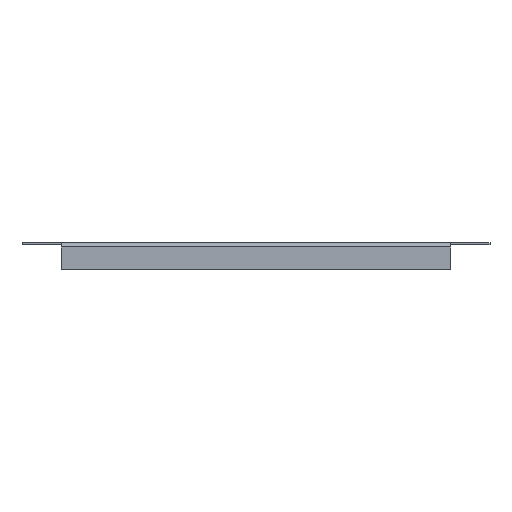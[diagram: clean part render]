
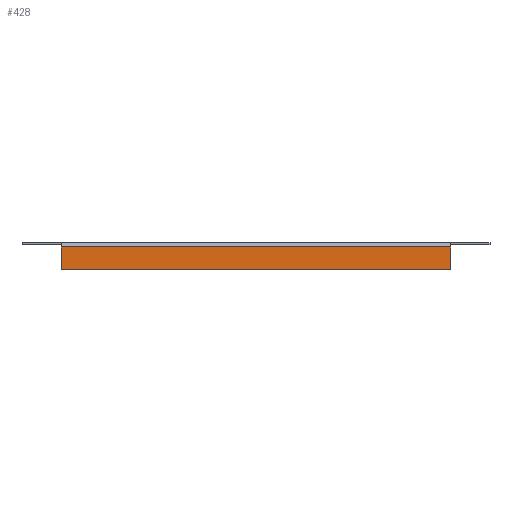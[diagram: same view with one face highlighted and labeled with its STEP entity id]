
A CAD part, front view. The second image highlights one B-rep face of the part: STEP entity #428.
In plain terms, the highlighted planar face has unit normal (0, -1, 0).
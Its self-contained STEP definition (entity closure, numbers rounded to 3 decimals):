
#39 = CARTESIAN_POINT ( 'NONE',  ( -110.2, -99.5, -13.8 ) ) ;
#44 = VECTOR ( 'NONE', #291, 1000. ) ;
#84 = EDGE_CURVE ( 'NONE', #817, #505, #1052, .T. ) ;
#92 = DIRECTION ( 'NONE',  ( 0., 0., 1. ) ) ;
#152 = EDGE_CURVE ( 'NONE', #388, #342, #1193, .T. ) ;
#185 = CARTESIAN_POINT ( 'NONE',  ( -110.2, -99.5, -1.2 ) ) ;
#201 = CARTESIAN_POINT ( 'NONE',  ( 110.2, -99.5, -13.8 ) ) ;
#219 = CARTESIAN_POINT ( 'NONE',  ( 110.2, -99.5, 0. ) ) ;
#265 = LINE ( 'NONE', #201, #44 ) ;
#291 = DIRECTION ( 'NONE',  ( -1., 0., 0. ) ) ;
#342 = VERTEX_POINT ( 'NONE', #699 ) ;
#347 = DIRECTION ( 'NONE',  ( 0., 1., 0. ) ) ;
#371 = FACE_OUTER_BOUND ( 'NONE', #1116, .T. ) ;
#388 = VERTEX_POINT ( 'NONE', #529 ) ;
#392 = AXIS2_PLACEMENT_3D ( 'NONE', #625, #347, #1003 ) ;
#405 = ORIENTED_EDGE ( 'NONE', *, *, #84, .F. ) ;
#428 = ADVANCED_FACE ( 'NONE', ( #371 ), #905, .F. ) ;
#475 = ORIENTED_EDGE ( 'NONE', *, *, #783, .F. ) ;
#492 = DIRECTION ( 'NONE',  ( 0., 0., -1. ) ) ;
#505 = VERTEX_POINT ( 'NONE', #185 ) ;
#529 = CARTESIAN_POINT ( 'NONE',  ( 110.2, -99.5, -1.2 ) ) ;
#624 = EDGE_CURVE ( 'NONE', #342, #817, #265, .T. ) ;
#625 = CARTESIAN_POINT ( 'NONE',  ( 110.2, -99.5, 0. ) ) ;
#626 = ORIENTED_EDGE ( 'NONE', *, *, #152, .F. ) ;
#669 = VECTOR ( 'NONE', #492, 1000. ) ;
#699 = CARTESIAN_POINT ( 'NONE',  ( 110.2, -99.5, -13.8 ) ) ;
#733 = ORIENTED_EDGE ( 'NONE', *, *, #624, .F. ) ;
#779 = DIRECTION ( 'NONE',  ( 1., 0., 0. ) ) ;
#783 = EDGE_CURVE ( 'NONE', #505, #388, #1160, .T. ) ;
#817 = VERTEX_POINT ( 'NONE', #39 ) ;
#863 = VECTOR ( 'NONE', #92, 1000. ) ;
#905 = PLANE ( 'NONE',  #392 ) ;
#1003 = DIRECTION ( 'NONE',  ( 0., 0., 1. ) ) ;
#1052 = LINE ( 'NONE', #1105, #863 ) ;
#1105 = CARTESIAN_POINT ( 'NONE',  ( -110.2, -99.5, -13.8 ) ) ;
#1116 = EDGE_LOOP ( 'NONE', ( #475, #405, #733, #626 ) ) ;
#1130 = VECTOR ( 'NONE', #779, 1000. ) ;
#1135 = CARTESIAN_POINT ( 'NONE',  ( 110.2, -99.5, -1.2 ) ) ;
#1160 = LINE ( 'NONE', #1135, #1130 ) ;
#1193 = LINE ( 'NONE', #219, #669 ) ;
